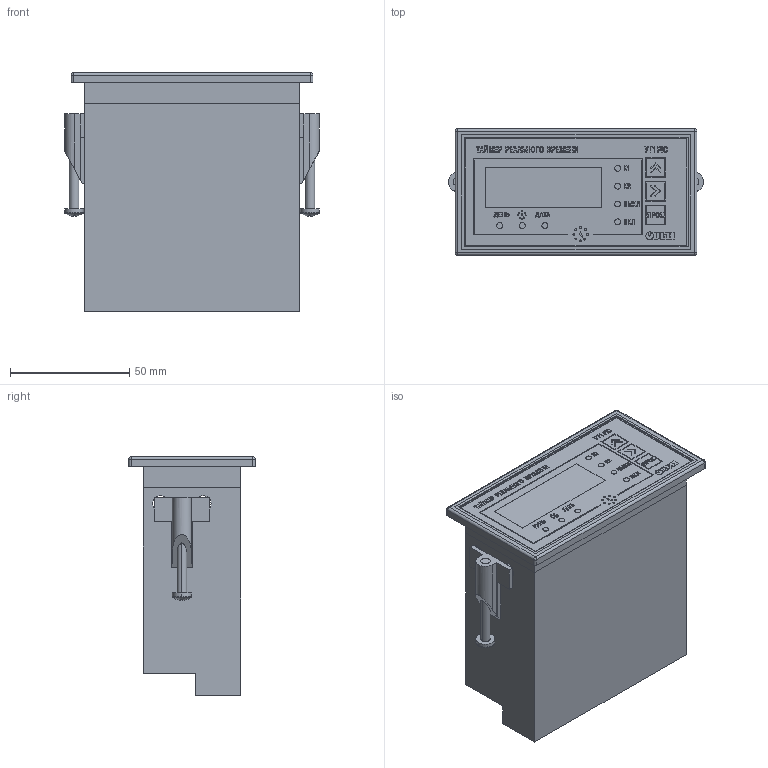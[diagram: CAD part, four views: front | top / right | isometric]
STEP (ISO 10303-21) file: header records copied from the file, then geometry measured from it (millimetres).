
FILE_DESCRIPTION (( 'STEP AP214' ), '1' );
FILE_NAME ('3D Ìîäåëü ÓÒ1-Ù2.STEP', '2016-02-16T13:16:41', ( '' ), ( '' ), 'SwSTEP 2.0', 'SolidWorks 2013', '' );
FILE_SCHEMA (( 'AUTOMOTIVE_DESIGN' ));
Length unit declared in the file: millimetre
Products named in the file (8): Ïàíåëü ëèöåâàÿ ÓÒ1-Ù2; Êëåììà íèçêàÿ_11õ8õ5ìì; Êîðïóñ Ù2_2; Êîðïóñ Ù2_1; pan cross head_am_B18.6.7M - M4 x 0.7 x 40 Type I Cross Recessed PHMS --40N; Ñòîïîð âèíòîâîé Ù; Óïëîòíèòåëü Ù2; 3D Ìîäåëü ÓÒ1-Ù2
Assembly tree (24 placements, depth 2):
  3D Ìîäåëü ÓÒ1-Ù2
    Óïëîòíèòåëü Ù2
    Ñòîïîð âèíòîâîé Ù  x2
    pan cross head_am_B18.6.7M - M4 x 0.7 x 40 Type I Cross Recessed PHMS --40N  x2
    Êîðïóñ Ù2_1
    Êîðïóñ Ù2_2
    Êëåììà íèçêàÿ_11õ8õ5ìì  x16
    Ïàíåëü ëèöåâàÿ ÓÒ1-Ù2
Bounding box: 107 x 53 x 100.1 mm (x, y, z)
Volume: 99249.2 mm3; surface area: 89254.4 mm2
Topology: 24 solids, 24 shells, 1884 faces, 4871 edges, 3210 vertices
Faces by surface type: plane 1461, cylinder 218, bspline 193, sphere 8, torus 4
Entity records: 52558 total; most frequent: CARTESIAN_POINT 11969, ORIENTED_EDGE 6372, DIRECTION 5074, EDGE_CURVE 3186, LINE 2596, VECTOR 2596, VERTEX_POINT 2114, EDGE_LOOP 1398
